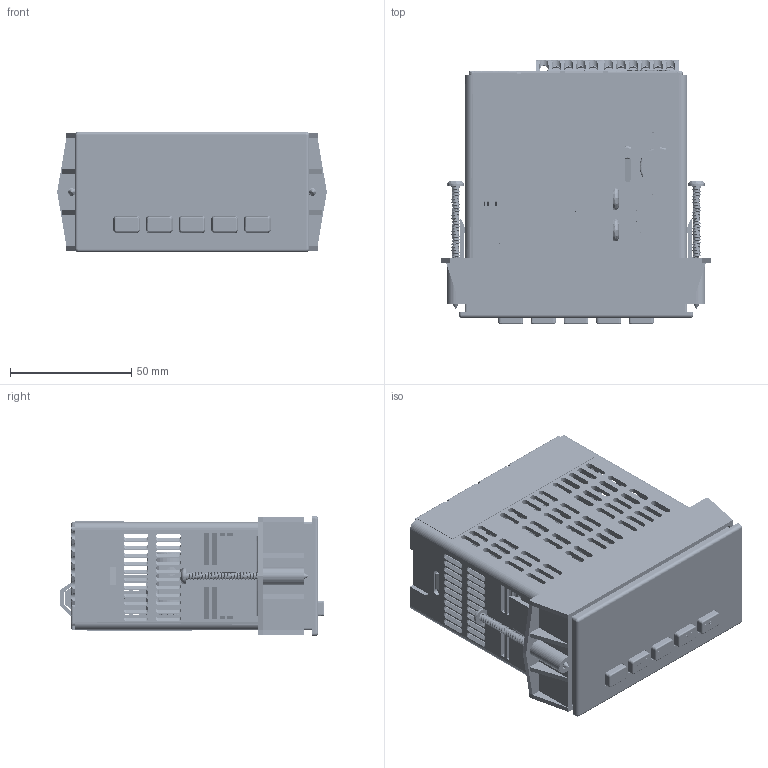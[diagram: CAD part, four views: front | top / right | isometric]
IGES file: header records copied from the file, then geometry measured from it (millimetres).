
Start section: SolidWorks IGES file using analytic representation for surfaces
Global section: file name: W:\Teams\Mech\SE data\Product_Lines\Customer 3D Models (Step files)\PAX\IGES\PAX.IGS; native system: SolidWorks 2022; preprocessor: SolidWorks 2022; author: joseph.cirabisi; date: 221220.133824; units: millimetre
Bounding box: 111.07 x 108.89 x 49.53 mm (x, y, z)
Surface area: 154343.2 mm2 (no closed solid volume)
Topology: 0 solids, 0 shells, 4268 faces, 40749 edges, 40719 vertices
Faces by surface type: bspline 3355, revolution 913
